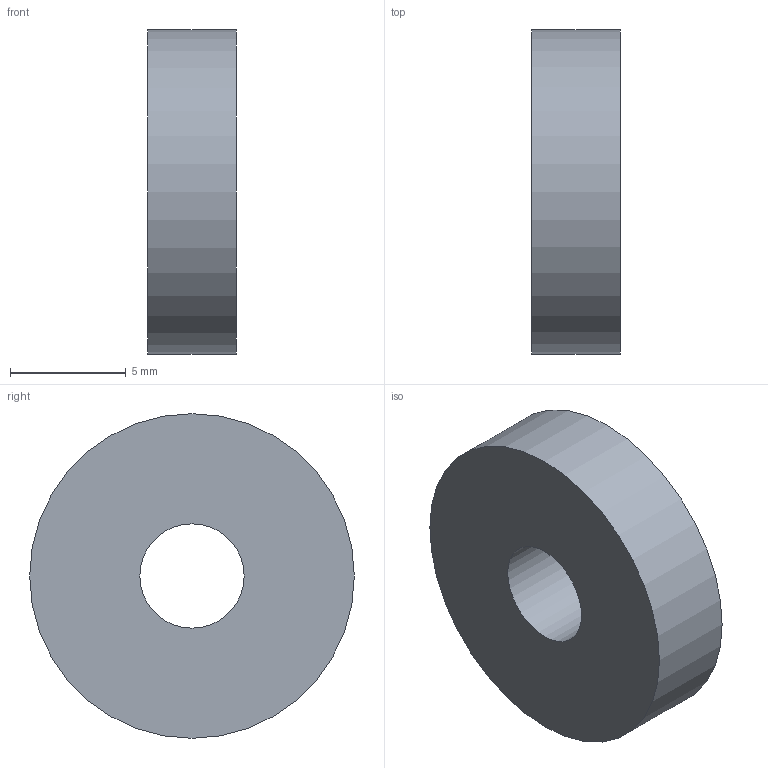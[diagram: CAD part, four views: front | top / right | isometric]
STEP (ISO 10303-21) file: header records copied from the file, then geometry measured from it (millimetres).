
FILE_DESCRIPTION(('Open CASCADE Model'),'2;1');
FILE_NAME('Open CASCADE Shape Model','2026-10-18T22:58:37',('Author'),( 'Open CASCADE'),'Open CASCADE STEP processor 7.9','Open CASCADE 7.9' ,'Unknown');
FILE_SCHEMA(('AUTOMOTIVE_DESIGN { 1 0 10303 214 1 1 1 1 }'));
Length unit declared in the file: millimetre
Products named in the file (1): Open CASCADE STEP translator 7.9 32
Bounding box: 3.83 x 14 x 14 mm (x, y, z)
Volume: 528 mm3; surface area: 498.4 mm2
Topology: 1 solids, 1 shells, 4 faces, 6 edges, 4 vertices
Faces by surface type: cylinder 2, plane 2
Full cylindrical faces by diameter (mm): 4.5 x1, 14 x1
Entity records: 192 total; most frequent: CARTESIAN_POINT 39, DIRECTION 30, ORIENTED_EDGE 12, PCURVE 12, DEFINITIONAL_REPRESENTATION 12, LINE 10, VECTOR 10, AXIS2_PLACEMENT_3D 9
